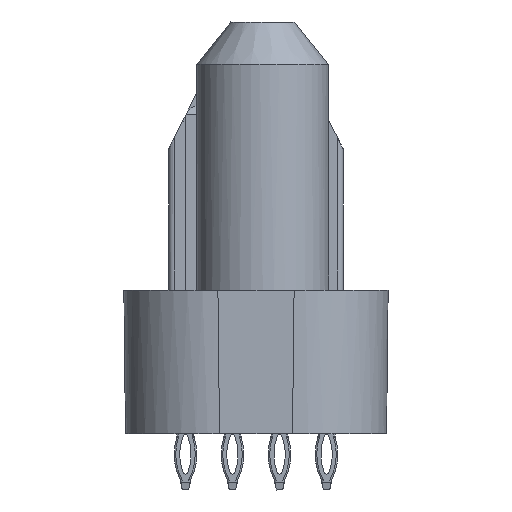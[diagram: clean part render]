
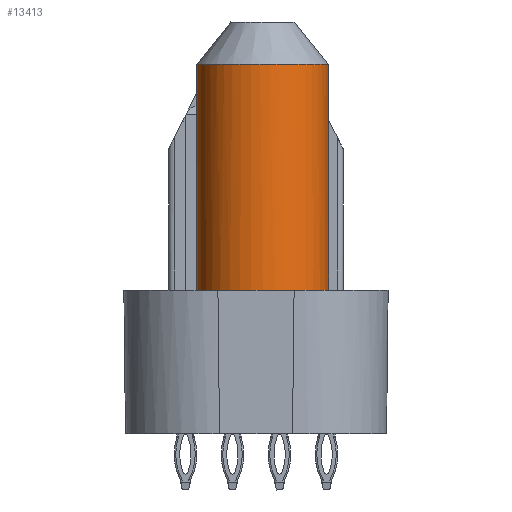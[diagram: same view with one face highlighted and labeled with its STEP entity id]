
A CAD part, left-side view. The second image highlights one B-rep face of the part: STEP entity #13413.
In plain terms, the highlighted cylindrical face has radius 3.5 mm (diameter 7 mm), a partial arc.
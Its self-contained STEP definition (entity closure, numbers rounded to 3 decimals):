
#2920=CYLINDRICAL_SURFACE('',#82334,3.5);
#4345=B_SPLINE_CURVE_WITH_KNOTS('',3,(#130229,#130230,#130231,#130232,#130233,
#130234,#130235,#130236,#130237,#130238),.UNSPECIFIED.,.F.,.F.,(4,2,2,2,
4),(0.,0.25,0.5,0.75,1.),.UNSPECIFIED.);
#9160=CIRCLE('',#82331,3.5);
#13413=ADVANCED_FACE('',(#18894),#2920,.T.);
#18894=FACE_OUTER_BOUND('',#23369,.T.);
#23369=EDGE_LOOP('',(#45063,#45064,#45065,#45066));
#45063=ORIENTED_EDGE('',*,*,#62592,.F.);
#45064=ORIENTED_EDGE('',*,*,#62593,.T.);
#45065=ORIENTED_EDGE('',*,*,#62586,.F.);
#45066=ORIENTED_EDGE('',*,*,#62582,.T.);
#51730=VERTEX_POINT('',#130207);
#51731=VERTEX_POINT('',#130208);
#51734=VERTEX_POINT('',#130216);
#51739=VERTEX_POINT('',#130228);
#62582=EDGE_CURVE('',#51730,#51731,#9160,.T.);
#62586=EDGE_CURVE('',#51730,#51734,#67614,.T.);
#62592=EDGE_CURVE('',#51739,#51731,#67620,.T.);
#62593=EDGE_CURVE('',#51739,#51734,#4345,.T.);
#67614=LINE('',#130215,#72669);
#67620=LINE('',#130227,#72675);
#72669=VECTOR('',#106671,1.);
#72675=VECTOR('',#106679,1.);
#82331=AXIS2_PLACEMENT_3D('',#130206,#106664,#106665);
#82334=AXIS2_PLACEMENT_3D('',#130239,#106680,#106681);
#106664=DIRECTION('',(0.,0.,1.));
#106665=DIRECTION('',(0.,-1.,0.));
#106671=DIRECTION('',(0.,0.,1.));
#106679=DIRECTION('',(0.,0.,-1.));
#106680=DIRECTION('',(0.,0.,1.));
#106681=DIRECTION('',(1.,0.,0.));
#130206=CARTESIAN_POINT('',(-31.45,-0.355,7.63));
#130207=CARTESIAN_POINT('',(-31.45,3.145,7.63));
#130208=CARTESIAN_POINT('',(-31.45,-3.855,7.63));
#130215=CARTESIAN_POINT('',(-31.45,3.145,8.63));
#130216=CARTESIAN_POINT('',(-31.45,3.145,19.63));
#130227=CARTESIAN_POINT('',(-31.45,-3.855,19.38));
#130228=CARTESIAN_POINT('',(-31.45,-3.855,19.63));
#130229=CARTESIAN_POINT('',(-31.45,-3.855,19.63));
#130230=CARTESIAN_POINT('',(-32.366,-3.855,19.63));
#130231=CARTESIAN_POINT('',(-33.277,-3.478,19.63));
#130232=CARTESIAN_POINT('',(-34.573,-2.182,19.63));
#130233=CARTESIAN_POINT('',(-34.95,-1.271,19.63));
#130234=CARTESIAN_POINT('',(-34.95,0.561,19.63));
#130235=CARTESIAN_POINT('',(-34.573,1.472,19.63));
#130236=CARTESIAN_POINT('',(-33.277,2.768,19.63));
#130237=CARTESIAN_POINT('',(-32.366,3.145,19.63));
#130238=CARTESIAN_POINT('',(-31.45,3.145,19.63));
#130239=CARTESIAN_POINT('',(-31.45,-0.355,7.63));
